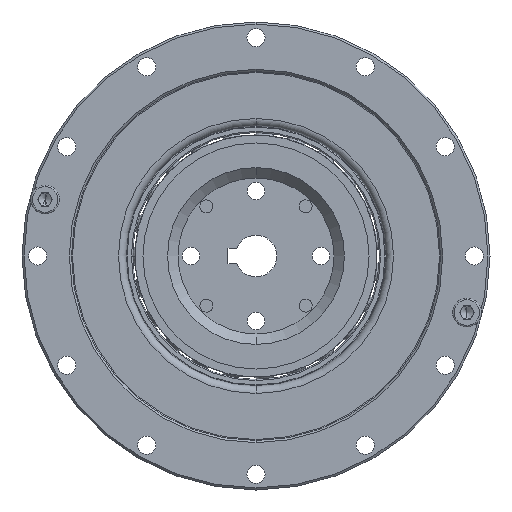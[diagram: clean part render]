
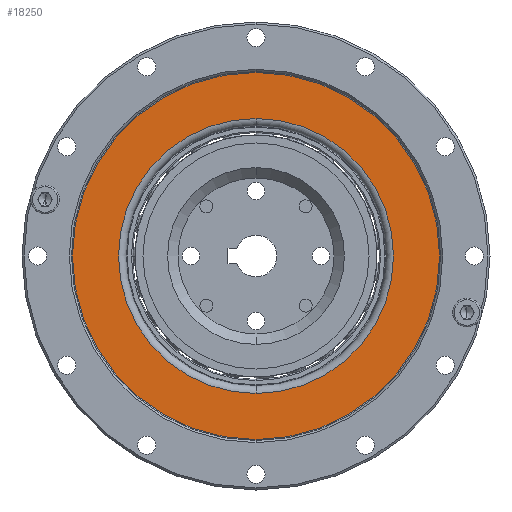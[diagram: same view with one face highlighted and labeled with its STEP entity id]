
A CAD part, left-side view. The second image highlights one B-rep face of the part: STEP entity #18250.
In plain terms, the highlighted planar face has unit normal (-1, 0, 0).
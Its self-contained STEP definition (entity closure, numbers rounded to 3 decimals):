
#783 = DIRECTION ( 'NONE',  ( -1., 0., 0. ) ) ;
#1382 = AXIS2_PLACEMENT_3D ( 'NONE', #14588, #4902, #16181 ) ;
#1416 = CIRCLE ( 'NONE', #1382, 26.45 ) ;
#2730 = DIRECTION ( 'NONE',  ( 0., 0., -1. ) ) ;
#2921 = ORIENTED_EDGE ( 'NONE', *, *, #19554, .F. ) ;
#3438 = VERTEX_POINT ( 'NONE', #19538 ) ;
#3500 = EDGE_CURVE ( 'NONE', #3438, #17155, #20713, .T. ) ;
#3881 = EDGE_LOOP ( 'NONE', ( #15549, #6924 ) ) ;
#4160 = VERTEX_POINT ( 'NONE', #15746 ) ;
#4902 = DIRECTION ( 'NONE',  ( -1., 0., 0. ) ) ;
#5525 = AXIS2_PLACEMENT_3D ( 'NONE', #8552, #19808, #10181 ) ;
#6415 = AXIS2_PLACEMENT_3D ( 'NONE', #17011, #7351, #18613 ) ;
#6725 = EDGE_CURVE ( 'NONE', #17155, #3438, #17106, .T. ) ;
#6924 = ORIENTED_EDGE ( 'NONE', *, *, #3500, .T. ) ;
#7351 = DIRECTION ( 'NONE',  ( -1., 0., 0. ) ) ;
#8552 = CARTESIAN_POINT ( 'NONE',  ( 10.776, 0., 0. ) ) ;
#9434 = CARTESIAN_POINT ( 'NONE',  ( 10.776, 0., -26.45 ) ) ;
#10181 = DIRECTION ( 'NONE',  ( 0., 0., 1. ) ) ;
#10503 = CARTESIAN_POINT ( 'NONE',  ( 10.776, 0., 0. ) ) ;
#12121 = DIRECTION ( 'NONE',  ( 0., 0., 1. ) ) ;
#12419 = DIRECTION ( 'NONE',  ( 1., 0., 0. ) ) ;
#12428 = FACE_BOUND ( 'NONE', #18679, .T. ) ;
#13550 = AXIS2_PLACEMENT_3D ( 'NONE', #20421, #12419, #2730 ) ;
#14588 = CARTESIAN_POINT ( 'NONE',  ( 10.776, 0., 0. ) ) ;
#15549 = ORIENTED_EDGE ( 'NONE', *, *, #6725, .T. ) ;
#15746 = CARTESIAN_POINT ( 'NONE',  ( 10.776, 0., 26.45 ) ) ;
#15916 = CARTESIAN_POINT ( 'NONE',  ( 10.776, 0., 35.3 ) ) ;
#16181 = DIRECTION ( 'NONE',  ( 0., 0., 1. ) ) ;
#16699 = FACE_OUTER_BOUND ( 'NONE', #3881, .T. ) ;
#17011 = CARTESIAN_POINT ( 'NONE',  ( 10.776, 0., 0. ) ) ;
#17063 = AXIS2_PLACEMENT_3D ( 'NONE', #10503, #783, #12121 ) ;
#17106 = CIRCLE ( 'NONE', #6415, 35.3 ) ;
#17155 = VERTEX_POINT ( 'NONE', #15916 ) ;
#17674 = CIRCLE ( 'NONE', #17063, 26.45 ) ;
#17713 = ORIENTED_EDGE ( 'NONE', *, *, #18718, .F. ) ;
#18250 = ADVANCED_FACE ( 'NONE', ( #12428, #16699 ), #18810, .F. ) ;
#18613 = DIRECTION ( 'NONE',  ( 0., 0., 1. ) ) ;
#18679 = EDGE_LOOP ( 'NONE', ( #17713, #2921 ) ) ;
#18718 = EDGE_CURVE ( 'NONE', #4160, #19457, #17674, .T. ) ;
#18810 = PLANE ( 'NONE',  #13550 ) ;
#19457 = VERTEX_POINT ( 'NONE', #9434 ) ;
#19538 = CARTESIAN_POINT ( 'NONE',  ( 10.776, 0., -35.3 ) ) ;
#19554 = EDGE_CURVE ( 'NONE', #19457, #4160, #1416, .T. ) ;
#19808 = DIRECTION ( 'NONE',  ( -1., 0., 0. ) ) ;
#20421 = CARTESIAN_POINT ( 'NONE',  ( 10.776, 35.3, 0. ) ) ;
#20713 = CIRCLE ( 'NONE', #5525, 35.3 ) ;
